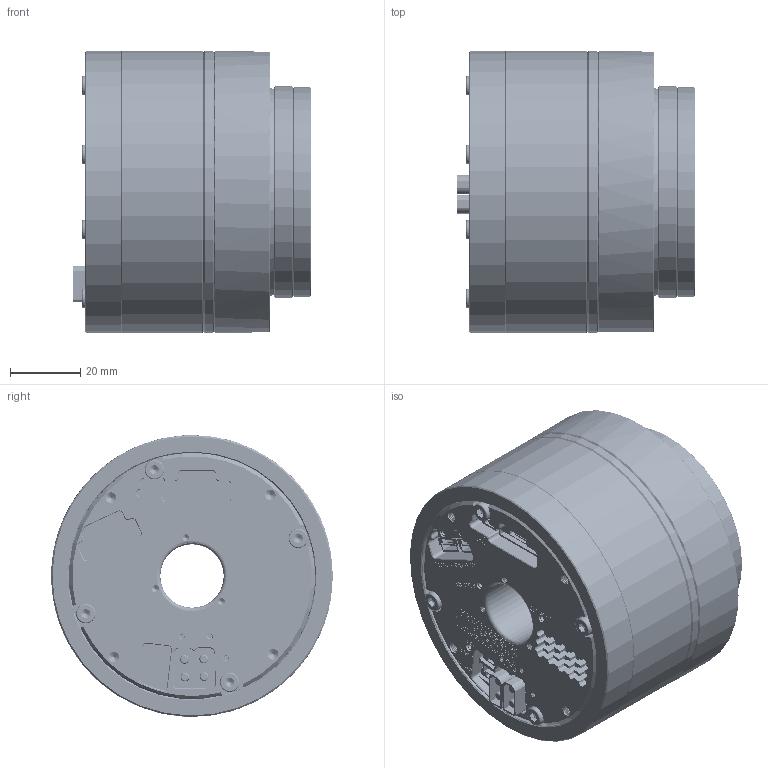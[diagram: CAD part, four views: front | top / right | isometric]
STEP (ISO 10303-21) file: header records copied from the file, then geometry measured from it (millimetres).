
FILE_DESCRIPTION (( 'STEP AP203' ), '1' );
FILE_NAME ('eRob80H｡ﾁ｡ﾁI-XX-18EX_V6_MC2E.DX.XX.STEP', '2024-11-12T12:32:49', ( 'Windows User' ), ( 'P R C' ), 'SwSTEP 2.0', 'SolidWorks 2021', '' );
FILE_SCHEMA (( 'CONFIG_CONTROL_DESIGN' ));
Length unit declared in the file: millimetre
Products named in the file (1): eRob80H××I-XX-18EX_V6_MC2E.DX.XX
Bounding box: 67.5 x 80 x 80 mm (x, y, z)
Volume: 272073.7 mm3; surface area: 42835.2 mm2
Topology: 1 solids, 5 shells, 4173 faces, 11235 edges, 7397 vertices
Faces by surface type: plane 2553, cylinder 976, bspline 511, cone 99, torus 34
Full cylindrical faces by diameter (mm): 1.5 x5, 1.6 x15, 2 x20, 2.1 x5, 2.5 x40, 3 x484, 3.2 x20, 4.5 x24, 4.8 x12, 5 x12, 5.5 x4, 18 x1, 59.6 x1, 60 x1, 68 x1, 70 x1, 79.8 x1, 80 x3
Entity records: 207128 total; most frequent: CARTESIAN_POINT 121538, ORIENTED_EDGE 18554, DIRECTION 15402, EDGE_CURVE 9277, LINE 6932, VECTOR 6932, VERTEX_POINT 6217, EDGE_LOOP 4306
